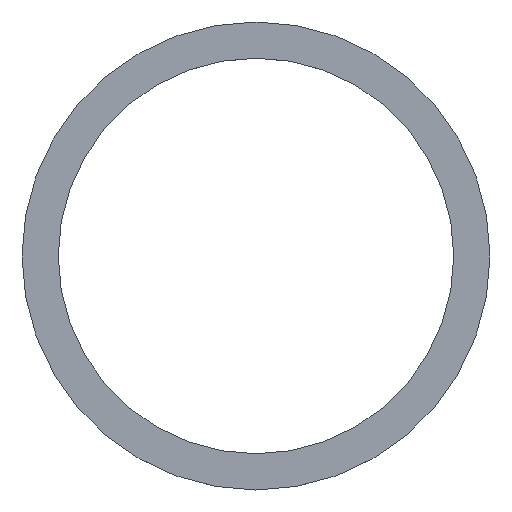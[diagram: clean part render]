
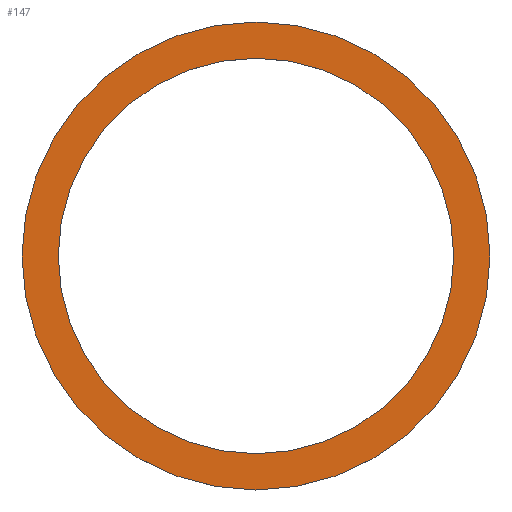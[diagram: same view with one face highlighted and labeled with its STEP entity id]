
A CAD part, top view. The second image highlights one B-rep face of the part: STEP entity #147.
In plain terms, the highlighted planar face has unit normal (0, 0, 1).
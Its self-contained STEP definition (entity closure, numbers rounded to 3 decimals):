
#84=CARTESIAN_POINT('',(50.9,0.,1.05));
#85=VERTEX_POINT('',#84);
#86=CARTESIAN_POINT('',(0.0,0.0,1.05));
#87=DIRECTION('',(0.0,0.0,-1.0));
#88=DIRECTION('',(-1.0,0.0,0.0));
#89=AXIS2_PLACEMENT_3D('',#86,#87,#88);
#90=CIRCLE('',#89,50.9);
#91=EDGE_CURVE('',#85,#85,#90,.T.);
#124=CARTESIAN_POINT('',(60.225,0.,1.05));
#125=VERTEX_POINT('',#124);
#126=CARTESIAN_POINT('',(0.0,0.0,1.05));
#127=DIRECTION('',(0.0,0.0,-1.0));
#128=DIRECTION('',(-1.0,0.0,0.0));
#129=AXIS2_PLACEMENT_3D('',#126,#127,#128);
#130=CIRCLE('',#129,60.225);
#131=EDGE_CURVE('',#125,#125,#130,.T.);
#136=CARTESIAN_POINT('',(0.0,0.0,1.05));
#137=DIRECTION('',(0.0,0.0,-1.0));
#138=DIRECTION('',(-1.0,0.0,0.0));
#139=AXIS2_PLACEMENT_3D('',#136,#137,#138);
#140=PLANE('',#139);
#141=ORIENTED_EDGE('',*,*,#131,.F.);
#142=EDGE_LOOP('',(#141));
#143=FACE_OUTER_BOUND('',#142,.T.);
#144=ORIENTED_EDGE('',*,*,#91,.T.);
#145=EDGE_LOOP('',(#144));
#146=FACE_BOUND('',#145,.T.);
#147=ADVANCED_FACE('',(#143,#146),#140,.F.);
